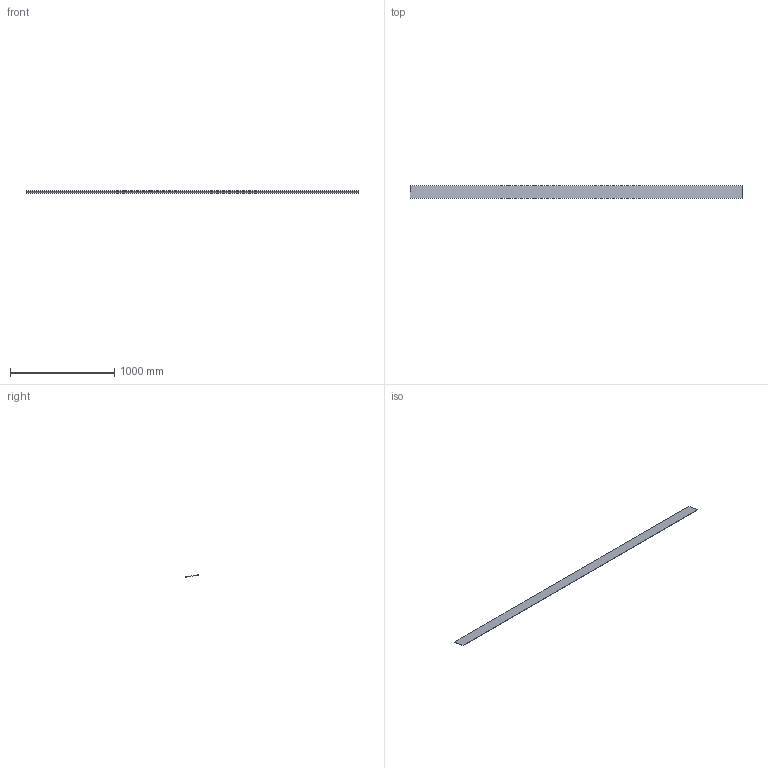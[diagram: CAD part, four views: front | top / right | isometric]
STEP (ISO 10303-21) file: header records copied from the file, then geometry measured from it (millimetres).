
FILE_DESCRIPTION(('golf model'),'2;1');
FILE_NAME('golf','',(''),(''),'golf_step_io','golf','');
FILE_SCHEMA(('AUTOMOTIVE_DESIGN { 1 0 10303 214 1 1 1 1 }'));
Length unit declared in the file: millimetre
Products named in the file (2): ASSEMBLY; bed.x_chain_tray
Assembly tree (1 placements, depth 2):
  ASSEMBLY
    bed.x_chain_tray
Bounding box: 3186 x 120.58 x 23.65 mm (x, y, z)
Volume: 971730 mm3; surface area: 793924 mm2
Topology: 1 solids, 1 shells, 6 faces, 12 edges, 8 vertices
Faces by surface type: plane 6
Entity records: 190 total; most frequent: CARTESIAN_POINT 28, DIRECTION 28, ORIENTED_EDGE 24, VECTOR 12, LINE 12, EDGE_CURVE 12, AXIS2_PLACEMENT_3D 8, VERTEX_POINT 8
